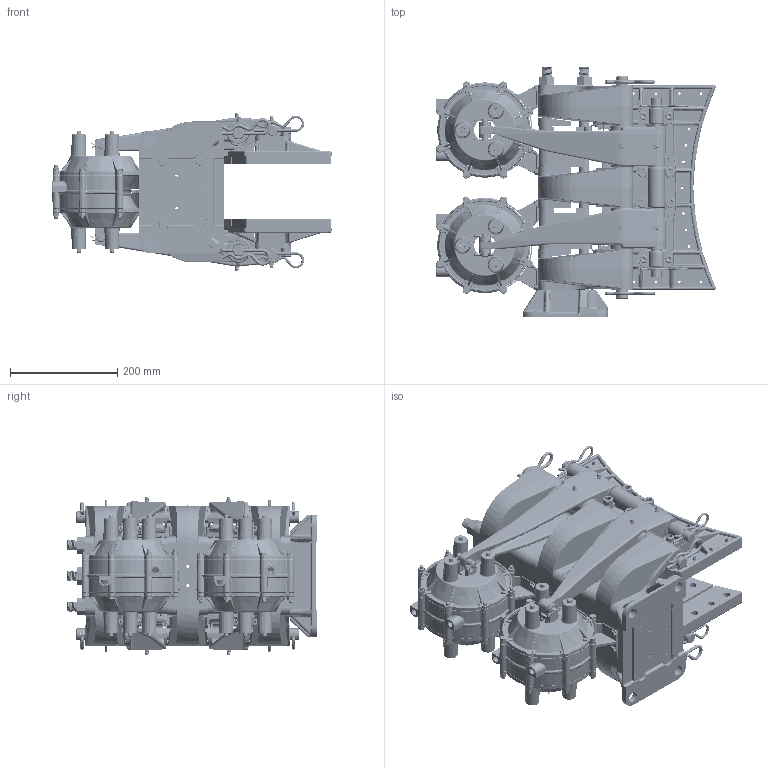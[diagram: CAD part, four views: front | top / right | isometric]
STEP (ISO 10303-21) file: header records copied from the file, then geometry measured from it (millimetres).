
FILE_DESCRIPTION (( 'STEP AP214' ), '1' );
FILE_NAME ('5026-A.STEP', '2018-03-12T15:25:26', ( '' ), ( '' ), 'SwSTEP 2.0', 'SolidWorks 2017', '' );
FILE_SCHEMA (( 'AUTOMOTIVE_DESIGN' ));
Length unit declared in the file: inch
Products named in the file (1): 5026-A
Bounding box: 520.36 x 466.73 x 294.44 mm (x, y, z)
Surface area: 2106487.7 mm2 (no closed solid volume)
Topology: 0 solids, 253 shells, 5324 faces, 16596 edges, 10869 vertices
Faces by surface type: plane 1532, cylinder 1361, bspline 1243, cone 649, torus 495, sphere 44
Full cylindrical faces by diameter (mm): 3.572 x4, 4.445 x12, 4.775 x39, 5.105 x6, 6.147 x12, 6.35 x60, 6.629 x2, 6.747 x4, 7.937 x5, 7.938 x8, 8.382 x8, 9.525 x2, 12.598 x4, 12.7 x10, 12.903 x48, 14.275 x8, 16.667 x5, 19.05 x135, 19.812 x2, 19.842 x2, 22.225 x2
Entity records: 346191 total; most frequent: CARTESIAN_POINT 155473, ORIENTED_EDGE 24345, DIRECTION 22847, EDGE_CURVE 15432, VERTEX_POINT 10439, AXIS2_PLACEMENT_3D 9215, EDGE_LOOP 6422, FACE_OUTER_BOUND 5566
